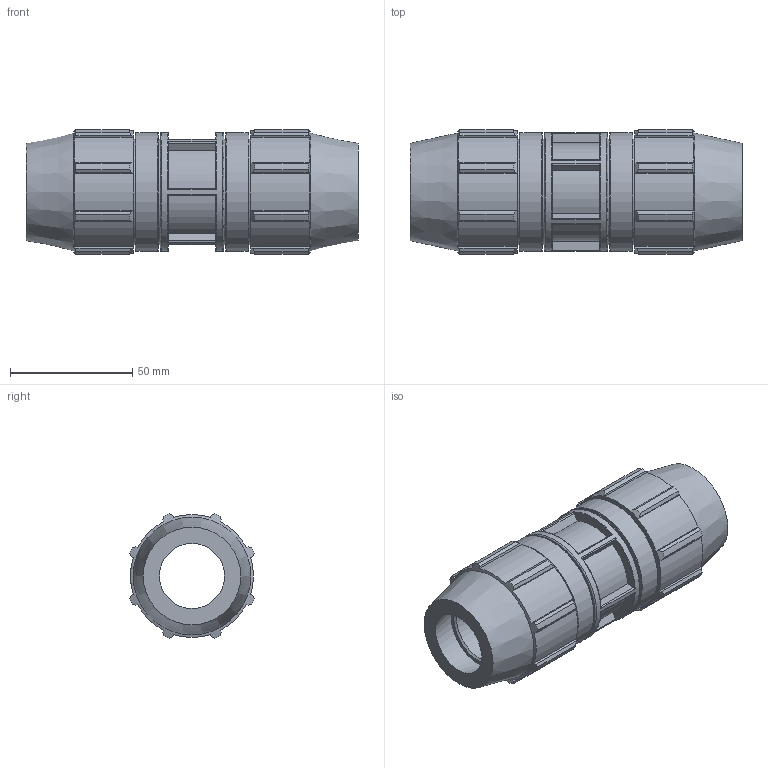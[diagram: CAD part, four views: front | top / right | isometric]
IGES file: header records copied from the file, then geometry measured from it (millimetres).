
Global section: file name: 0761M0007.ipt; native system: Autodesk Inventor 2019; preprocessor: unknown; author: KIM; date: 20210826.124840; units: inch
Bounding box: 135.89 x 50.91 x 50.91 mm (x, y, z)
Volume: 159725.5 mm3; surface area: 39936.3 mm2
Topology: 1 solids, 1 shells, 200 faces, 559 edges, 376 vertices
Faces by surface type: plane 100, cylinder 57, revolution 23, cone 20
Full cylindrical faces by diameter (mm): 43.282 x4, 48.692 x3
